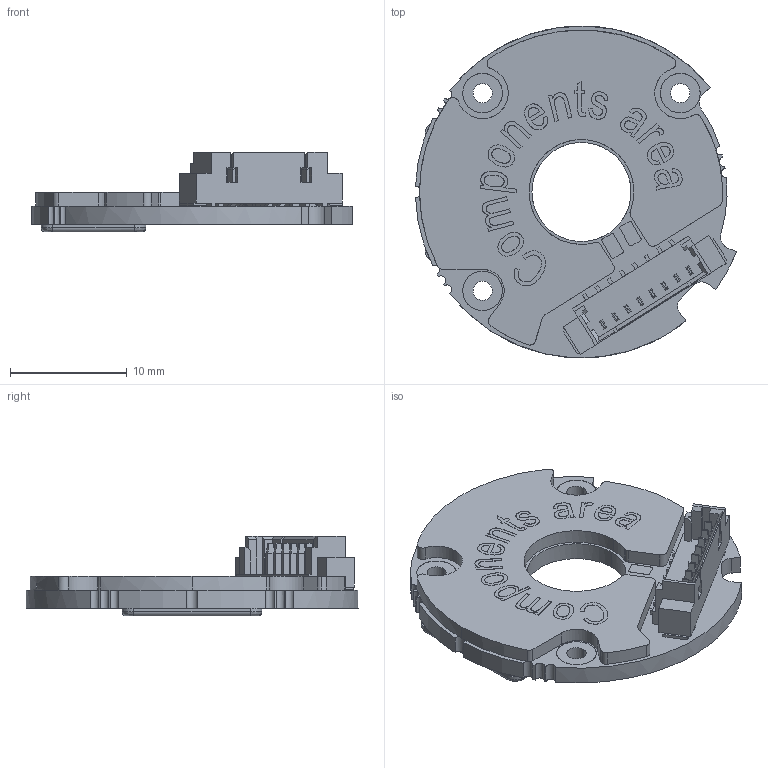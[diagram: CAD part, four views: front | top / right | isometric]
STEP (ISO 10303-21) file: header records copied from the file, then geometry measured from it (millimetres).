
FILE_DESCRIPTION (( 'STEP AP214' ), '1' );
FILE_NAME ('MB022xxxxxxGNx00.STEP', '2025-08-22T06:55:46', ( '' ), ( '' ), 'SwSTEP 2.0', 'SolidWorks 2024', '' );
FILE_SCHEMA (( 'AUTOMOTIVE_DESIGN' ));
Length unit declared in the file: millimetre
Products named in the file (1): MB022xxxxxxGNx00
Bounding box: 27.54 x 28.5 x 6.86 mm (x, y, z)
Surface area: 2094.7 mm2 (no closed solid volume)
Topology: 0 solids, 6 shells, 640 faces, 1750 edges, 1148 vertices
Faces by surface type: plane 389, bspline 126, cylinder 121, torus 4
Entity records: 36483 total; most frequent: CARTESIAN_POINT 17008, ORIENTED_EDGE 3493, EDGE_CURVE 1750, B_SPLINE_CURVE_WITH_KNOTS 1727, VERTEX_POINT 1148, DIRECTION 1060, EDGE_LOOP 699, UNCERTAINTY_MEASURE_WITH_UNIT 642
